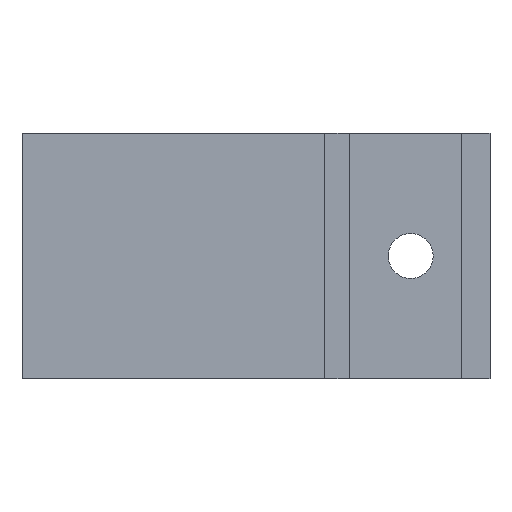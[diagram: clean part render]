
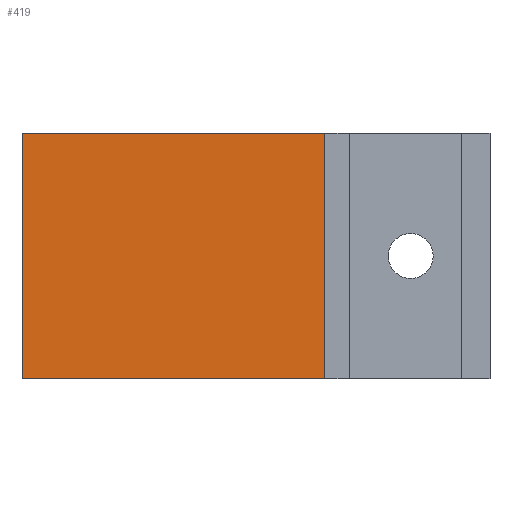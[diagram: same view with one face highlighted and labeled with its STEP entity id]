
A CAD part, left-side view. The second image highlights one B-rep face of the part: STEP entity #419.
In plain terms, the highlighted planar face has unit normal (-1, 0, 0).
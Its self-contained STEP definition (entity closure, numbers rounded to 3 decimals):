
#34=FACE_OUTER_BOUND('',#58,.T.);
#58=EDGE_LOOP('',(#327,#328,#329,#330));
#104=LINE('',#650,#159);
#105=LINE('',#652,#160);
#106=LINE('',#654,#161);
#107=LINE('',#655,#162);
#159=VECTOR('',#533,10.);
#160=VECTOR('',#534,10.);
#161=VECTOR('',#535,10.);
#162=VECTOR('',#536,10.);
#206=VERTEX_POINT('',#648);
#207=VERTEX_POINT('',#649);
#208=VERTEX_POINT('',#651);
#209=VERTEX_POINT('',#653);
#254=EDGE_CURVE('',#206,#207,#104,.T.);
#255=EDGE_CURVE('',#206,#208,#105,.F.);
#256=EDGE_CURVE('',#208,#209,#106,.T.);
#257=EDGE_CURVE('',#207,#209,#107,.T.);
#327=ORIENTED_EDGE('',*,*,#254,.F.);
#328=ORIENTED_EDGE('',*,*,#255,.T.);
#329=ORIENTED_EDGE('',*,*,#256,.T.);
#330=ORIENTED_EDGE('',*,*,#257,.F.);
#398=PLANE('',#456);
#419=ADVANCED_FACE('',(#34),#398,.F.);
#456=AXIS2_PLACEMENT_3D('',#647,#531,#532);
#531=DIRECTION('center_axis',(1.,0.,0.));
#532=DIRECTION('ref_axis',(0.,1.,0.));
#533=DIRECTION('',(0.,1.,0.));
#534=DIRECTION('',(0.,0.,-1.));
#535=DIRECTION('',(0.,1.,0.));
#536=DIRECTION('',(0.,0.,1.));
#647=CARTESIAN_POINT('Origin',(74.8,0.,0.));
#648=CARTESIAN_POINT('',(74.8,3.,0.));
#649=CARTESIAN_POINT('',(74.8,40.,0.));
#650=CARTESIAN_POINT('',(74.8,0.,0.));
#651=CARTESIAN_POINT('',(74.8,3.,30.));
#652=CARTESIAN_POINT('',(74.8,3.,0.));
#653=CARTESIAN_POINT('',(74.8,40.,30.));
#654=CARTESIAN_POINT('',(74.8,0.,30.));
#655=CARTESIAN_POINT('',(74.8,40.,0.));
